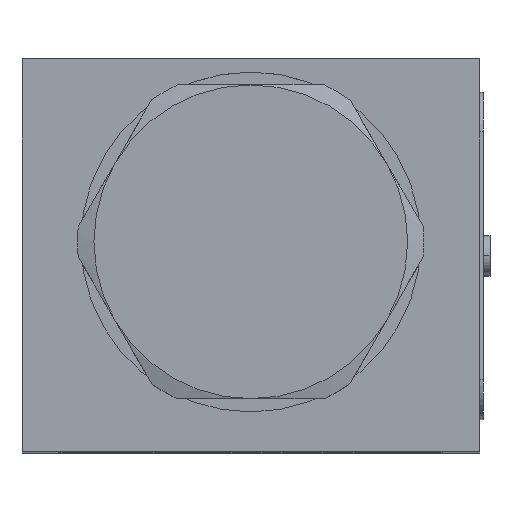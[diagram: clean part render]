
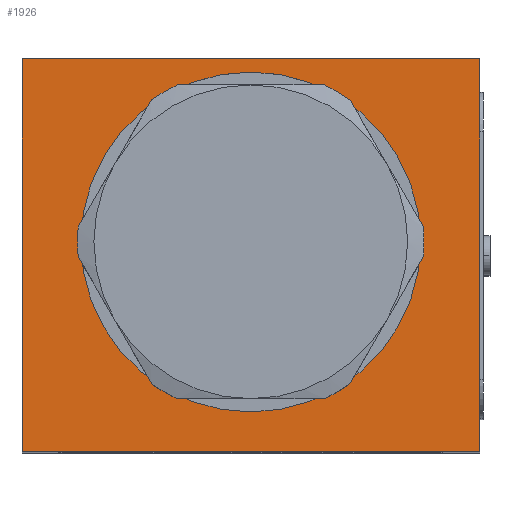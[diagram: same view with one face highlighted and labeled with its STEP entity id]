
A CAD part, top view. The second image highlights one B-rep face of the part: STEP entity #1926.
In plain terms, the highlighted planar face has unit normal (0, 0, 1).
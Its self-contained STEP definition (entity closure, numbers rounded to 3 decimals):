
#223=DIRECTION('',(-1.,0.,0.));
#224=VECTOR('',#223,35.);
#225=CARTESIAN_POINT('',(35.,0.,83.));
#226=LINE('',#225,#224);
#227=DIRECTION('',(0.,1.,0.));
#228=VECTOR('',#227,30.);
#229=CARTESIAN_POINT('',(0.,0.,83.));
#230=LINE('',#229,#228);
#231=DIRECTION('',(1.,0.,0.));
#232=VECTOR('',#231,35.);
#233=CARTESIAN_POINT('',(0.,30.,83.));
#234=LINE('',#233,#232);
#235=DIRECTION('',(0.,-1.,0.));
#236=VECTOR('',#235,30.);
#237=CARTESIAN_POINT('',(35.,30.,83.));
#238=LINE('',#237,#236);
#239=CARTESIAN_POINT('',(17.5,16.,83.));
#240=DIRECTION('',(0.,0.,1.));
#241=DIRECTION('',(1.,0.,0.));
#242=AXIS2_PLACEMENT_3D('',#239,#240,#241);
#244=CARTESIAN_POINT('',(17.5,16.,83.));
#245=DIRECTION('',(0.,0.,1.));
#246=DIRECTION('',(-1.,0.,0.));
#247=AXIS2_PLACEMENT_3D('',#244,#245,#246);
#1401=CARTESIAN_POINT('',(0.,0.,83.));
#1402=VERTEX_POINT('',#1401);
#1403=CARTESIAN_POINT('',(35.,0.,83.));
#1404=VERTEX_POINT('',#1403);
#1437=CARTESIAN_POINT('',(0.,30.,83.));
#1438=VERTEX_POINT('',#1437);
#1439=CARTESIAN_POINT('',(35.,30.,83.));
#1440=VERTEX_POINT('',#1439);
#1489=CARTESIAN_POINT('',(30.5,16.,83.));
#1490=CARTESIAN_POINT('',(4.5,16.,83.));
#1491=VERTEX_POINT('',#1489);
#1492=VERTEX_POINT('',#1490);
#1909=CARTESIAN_POINT('',(0.,0.,83.));
#1910=DIRECTION('',(0.,0.,1.));
#1911=DIRECTION('',(1.,0.,0.));
#1912=AXIS2_PLACEMENT_3D('',#1909,#1910,#1911);
#1913=PLANE('',#1912);
#1914=ORIENTED_EDGE('',*,*,#1747,.T.);
#1915=ORIENTED_EDGE('',*,*,#1810,.T.);
#1916=ORIENTED_EDGE('',*,*,#1824,.T.);
#1917=ORIENTED_EDGE('',*,*,#1885,.T.);
#1918=EDGE_LOOP('',(#1914,#1915,#1916,#1917));
#1919=FACE_OUTER_BOUND('',#1918,.F.);
#1921=ORIENTED_EDGE('',*,*,#1920,.T.);
#1923=ORIENTED_EDGE('',*,*,#1922,.T.);
#1924=EDGE_LOOP('',(#1921,#1923));
#1925=FACE_BOUND('',#1924,.F.);
#243=CIRCLE('',#242,13.);
#248=CIRCLE('',#247,13.);
#1747=EDGE_CURVE('',#1404,#1402,#226,.T.);
#1810=EDGE_CURVE('',#1402,#1438,#230,.T.);
#1824=EDGE_CURVE('',#1438,#1440,#234,.T.);
#1885=EDGE_CURVE('',#1440,#1404,#238,.T.);
#1920=EDGE_CURVE('',#1491,#1492,#243,.T.);
#1922=EDGE_CURVE('',#1492,#1491,#248,.T.);
#1926=ADVANCED_FACE('',(#1919,#1925),#1913,.T.);
